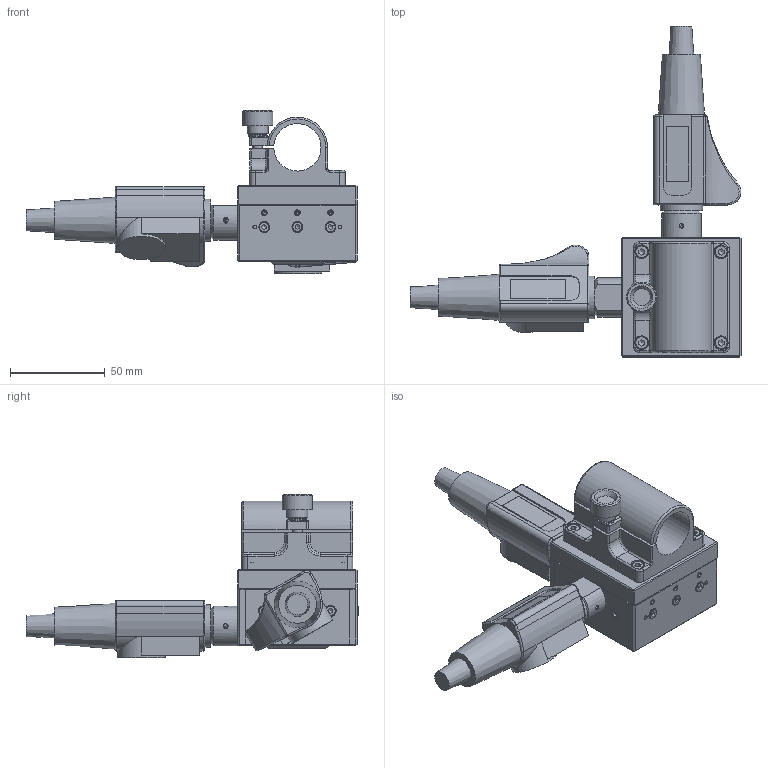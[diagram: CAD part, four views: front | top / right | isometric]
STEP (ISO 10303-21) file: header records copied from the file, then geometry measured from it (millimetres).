
FILE_DESCRIPTION(/* description */ ('Support avec table en croix'),/* implementation_level */ '2;1');
FILE_NAME(/* name */ 'S:\Bureau-Technique\Statif\MA 110-2-022.stp',/* time_stamp */ '2019-03-07T13:35:13+01:00',/* author */ ('ms'),/* organization */ ('Marcel Aubert'),/* preprocessor_version */ 'ST-DEVELOPER v17.2',/* originating_system */ 'Autodesk Inventor 2019',/* authorisation */ '');
FILE_SCHEMA (('CONFIG_CONTROL_DESIGN'));
Length unit declared in the file: millimetre
Products named in the file (32): MA 110-2-022; MA 110-2-000; 110-103; 110-105; 110-106; 110-107; 110-108; 110-109; 110-110; 110-112; 110-116; 110-202a; 110-204a; ISO 4762 - M3 x 10; ISO 4026 - M3 x 4; 110-115; 110-113; 110-114; ISO 2338 - 2 h8 x 6 - B; ISO 2338 - 3 h8 x 12 - B; ISO 2338 - 3 h8 x 20; ISO 4762 - M3 x 6; ISO 4762 - M3 x 6_1; BIL-004-03; 567-58; PLQ-265-03; ACS-027; 60.300..; ISO 4762 - M3 x 12; ISO 4762 - M4 x 8; ISO 7089 - 5 - 140 HV; ISO 4026 - M3 x 4_1
Assembly tree (99 placements, depth 3):
  MA 110-2-022
    MA 110-2-000
      110-103
      110-105
      110-106  x2
      110-107
      110-108
      110-109
      110-110  x4
      110-112
      110-116  x2
      110-202a
      110-204a
      ISO 4762 - M3 x 10  x8
      BIL-004-03  x20
      ISO 4762 - M3 x 6  x10
      ISO 4026 - M3 x 4  x6
      110-115  x4
      110-113  x4
      110-114  x4
      ISO 2338 - 2 h8 x 6 - B  x4
      ISO 2338 - 3 h8 x 12 - B  x2
      ISO 2338 - 3 h8 x 20
      ISO 4762 - M3 x 6_1
    567-58
    PLQ-265-03
    ACS-027
    60.300..  x2
    ISO 4762 - M3 x 12  x4
    ISO 4762 - M4 x 8  x4
    ISO 7089 - 5 - 140 HV
    ISO 4026 - M3 x 4_1  x4
Bounding box: 175.3 x 175.3 x 86.1 mm (x, y, z)
Volume: 284984.4 mm3; surface area: 113233.8 mm2
Topology: 102 solids, 102 shells, 1313 faces, 3445 edges, 2355 vertices
Faces by surface type: plane 688, cylinder 328, cone 148, torus 103, sphere 30, bspline 16
Full cylindrical faces by diameter (mm): 0.35 x8, 0.8 x4, 1.567 x4, 2 x20, 2.459 x34, 3 x44, 3.2 x11, 3.242 x8, 3.3 x20, 3.6 x12, 4 x8, 4.134 x1, 4.5 x4, 4.9 x1, 5 x2, 5.3 x2, 5.5 x22, 5.7 x6, 6 x16, 6.5 x6, 7 x5, 7.3 x4, 10 x1, 11 x1, 12 x4, 13 x1, 16 x1, 18.95 x1, 20.3 x1, 21 x1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
Entity records: 26429 total; most frequent: CARTESIAN_POINT 8182, DIRECTION 3754, ORIENTED_EDGE 3300, EDGE_CURVE 1650, AXIS2_PLACEMENT_3D 1479, VERTEX_POINT 1143, EDGE_LOOP 839, LINE 796
